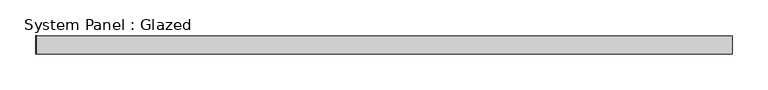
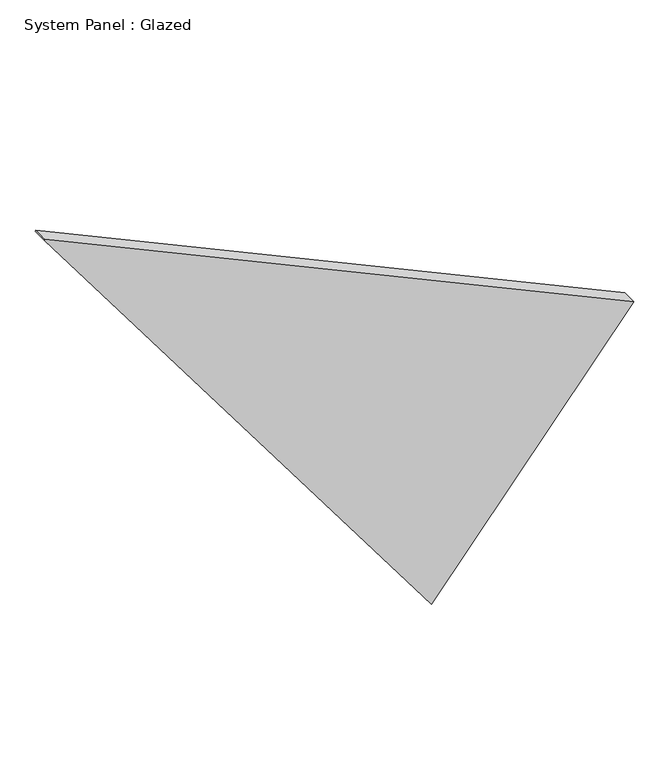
"""IFC4 building model written with IfcOpenShell, lengths in millimetres: plate geometry, System Panel : Glazed."""

import ifcopenshell
import ifcopenshell.guid

model = None  # the IFC model being written
_history = None  # IfcOwnerHistory: only IFC2X3 demands one
_inside = {}  # id of a spatial element -> (the spatial element, [elements in it])
_under = {}  # id of a project, library or spatial element -> (it, [spatial elements below it])
_declared = {}  # id of a project -> (the project, [libraries it declares])
_typed = {}  # id of a type object -> (the type object, [elements of that type])
_made_of = {}  # id of a material, layer set ... -> (it, [elements and type objects made of it])


def new_model(schema):
    """Start an empty IFC model of exactly this schema.

    Asked for "IFC4X3", IfcOpenShell would pick the latest addendum, in which some entities
    have other attributes; the version numbers below select the first issue.
    IFC2X3 requires an IfcOwnerHistory on every rooted entity: one is made here for all.
    """
    global model, _history
    if schema == "IFC4X3":
        model = ifcopenshell.file(schema_version=(4, 3, 0, 0))
    else:
        model = ifcopenshell.file(schema=schema)
    _inside.clear()
    _under.clear()
    _declared.clear()
    _typed.clear()
    _made_of.clear()
    _history = None
    if model.schema == "IFC2X3":
        org = make("IfcOrganization", Name="unknown")
        user = make(
            "IfcPersonAndOrganization",
            ThePerson=make("IfcPerson", FamilyName="unknown"),
            TheOrganization=org,
        )
        app = make(
            "IfcApplication",
            ApplicationDeveloper=org,
            Version="unknown",
            ApplicationFullName="unknown",
            ApplicationIdentifier="unknown",
        )
        _history = make(
            "IfcOwnerHistory",
            OwningUser=user,
            OwningApplication=app,
            ChangeAction="ADDED",
            CreationDate=0,
        )
    return model


def make(cls, **values):
    """One entity of the class cls with the attributes given. An attribute that is None is left unset."""
    return model.create_entity(
        cls, **{name: value for name, value in values.items() if value is not None}
    )


def rooted(cls, **values):
    """An entity with a GlobalId (a new one), such as an element, a storey or a relation."""
    return make(cls, GlobalId=ifcopenshell.guid.new(), OwnerHistory=_history, **values)


def si_unit(unit_type, name, prefix=None):
    """IfcSIUnit, for example si_unit("LENGTHUNIT", "METRE", prefix="MILLI")."""
    return make("IfcSIUnit", UnitType=unit_type, Prefix=prefix, Name=name)


def assignment(units):
    """IfcUnitAssignment: the units of a project."""
    return None if units is None else make("IfcUnitAssignment", Units=units)


def point(xyz):
    """IfcCartesianPoint."""
    return None if xyz is None else make("IfcCartesianPoint", Coordinates=xyz)


def direction(xyz):
    """IfcDirection."""
    return None if xyz is None else make("IfcDirection", DirectionRatios=xyz)


def frame(location, z_axis=None, x_axis=None):
    """IfcAxis2Placement3D, a coordinate frame: its origin and axes. An axis left out is left unset."""
    return make(
        "IfcAxis2Placement3D",
        Location=point(location),
        Axis=direction(z_axis),
        RefDirection=direction(x_axis),
    )


def origin():
    """The frame at (0, 0, 0) with its axes left unset."""
    return frame((0.0, 0.0, 0.0))


def place(relative_to, where):
    """IfcLocalPlacement: puts the frame where relative to a parent placement (None: the world)."""
    return make(
        "IfcLocalPlacement", PlacementRelTo=relative_to, RelativePlacement=where
    )


def context(
    kind, dimensions, precision=None, world=None, true_north=None, identifier=None
):
    """IfcGeometricRepresentationContext, for example the 3D "Model" context."""
    return make(
        "IfcGeometricRepresentationContext",
        ContextIdentifier=identifier,
        ContextType=kind,
        CoordinateSpaceDimension=dimensions,
        Precision=precision,
        WorldCoordinateSystem=world,
        TrueNorth=true_north,
    )


def project(units=None, contexts=None):
    """IfcProject with its units and contexts."""
    return rooted(
        "IfcProject",
        Name="project",
        RepresentationContexts=contexts,
        UnitsInContext=assignment(units),
    )


def spatial(cls, under=None, at=None, **own):
    """A site, building, storey or space (cls), placed at a placement, below another one or the project."""
    s = rooted(cls, ObjectPlacement=at, **own)
    if under is not None:
        _under.setdefault(under.id(), (under, []))[1].append(s)
    return s


def polyline(points):
    """IfcPolyline through the points."""
    return make("IfcPolyline", Points=[point(p) for p in points])


def outline(outer, holes=None, kind="AREA"):
    """IfcArbitraryClosedProfileDef: a profile drawn as a closed curve; with holes, ...WithVoids."""
    if holes is None:
        return make("IfcArbitraryClosedProfileDef", ProfileType=kind, OuterCurve=outer)
    return make(
        "IfcArbitraryProfileDefWithVoids",
        ProfileType=kind,
        OuterCurve=outer,
        InnerCurves=holes,
    )


def extrude(swept, where, along, depth):
    """IfcExtrudedAreaSolid: the profile swept, set in the frame where, extruded along a direction by depth."""
    return make(
        "IfcExtrudedAreaSolid",
        SweptArea=swept,
        Position=where,
        ExtrudedDirection=direction(along),
        Depth=depth,
    )


def shape(context_of_items, identifier, shape_type, items):
    """IfcShapeRepresentation: the items that make up one representation, for example the "Body"."""
    return make(
        "IfcShapeRepresentation",
        ContextOfItems=context_of_items,
        RepresentationIdentifier=identifier,
        RepresentationType=shape_type,
        Items=items,
    )


def source(mapping_origin, context_of_items, identifier, shape_type, items):
    """IfcRepresentationMap: a shape defined once, which mapped items show again and again."""
    return make(
        "IfcRepresentationMap",
        MappingOrigin=mapping_origin,
        MappedRepresentation=shape(context_of_items, identifier, shape_type, items),
    )


def transform(
    local_origin,
    x_axis=None,
    y_axis=None,
    z_axis=None,
    scale=None,
    scale2=None,
    scale3=None,
    uniform=True,
):
    """IfcCartesianTransformationOperator3D, or its non-uniform kind. x_axis, y_axis, z_axis: its Axis1, 2, 3."""
    if uniform:
        return make(
            "IfcCartesianTransformationOperator3D",
            Axis1=direction(x_axis),
            Axis2=direction(y_axis),
            LocalOrigin=point(local_origin),
            Scale=scale,
            Axis3=direction(z_axis),
        )
    return make(
        "IfcCartesianTransformationOperator3DnonUniform",
        Axis1=direction(x_axis),
        Axis2=direction(y_axis),
        LocalOrigin=point(local_origin),
        Scale=scale,
        Axis3=direction(z_axis),
        Scale2=scale2,
        Scale3=scale3,
    )


def mapped(mapping_source, mapping_target):
    """IfcMappedItem: shows the shape of a source again, moved by a transform."""
    return make(
        "IfcMappedItem", MappingSource=mapping_source, MappingTarget=mapping_target
    )


def made_of(thing, what):
    """Note that an element or type object is made of a material, layer set ...; save() writes the relation."""
    if what is not None:
        _made_of.setdefault(what.id(), (what, []))[1].append(thing)
    return thing


def element(
    cls,
    number,
    at=None,
    inside=None,
    cuts=None,
    type_object=None,
    material=None,
    context=None,
    identifier="Body",
    shape_type=None,
    held_by="IfcProductDefinitionShape",
    body=None,
    shapes=None,
    **own,
):
    """One element of the class cls, such as IfcWall. Its Tag is "e" and its number.

    at: its placement. inside: the storey or other place that contains it. cuts: it is an
    opening in that element (IfcRelVoidsElement). A single representation is given by context,
    identifier, shape_type and body (its items); several are given by shapes. held_by: the class
    of the entity that holds the representations. save() writes the other relations.
    """
    e = rooted(cls, Tag="e%d" % number, ObjectPlacement=at, **own)
    if body is not None:
        shapes = [shape(context, identifier, shape_type, body)]
    if shapes is not None:
        e.Representation = make(held_by, Representations=shapes)
    if inside is not None:
        _inside.setdefault(inside.id(), (inside, []))[1].append(e)
    if cuts is not None:
        rooted(
            "IfcRelVoidsElement", RelatingBuildingElement=cuts, RelatedOpeningElement=e
        )
    if type_object is not None:
        _typed.setdefault(type_object.id(), (type_object, []))[1].append(e)
    return made_of(e, material)


def aggregate(whole, parts):
    """IfcRelAggregates: a whole, such as a stair, and the parts it consists of."""
    return rooted("IfcRelAggregates", RelatingObject=whole, RelatedObjects=parts)


def save(model, path):
    """Write the relations noted so far, then the file.

    IfcRelAggregates (storeys below a building ...), IfcRelContainedInSpatialStructure (elements
    in a storey), IfcRelDefinesByType, IfcRelAssociatesMaterial and IfcRelDeclares: one each for
    every whole, place, type object, material and project.
    """
    for whole, parts in _under.values():
        aggregate(whole, parts)
    for where, things in _inside.values():
        rooted(
            "IfcRelContainedInSpatialStructure",
            RelatedElements=things,
            RelatingStructure=where,
        )
    for kind, things in _typed.values():
        rooted("IfcRelDefinesByType", RelatedObjects=things, RelatingType=kind)
    for what, things in _made_of.values():
        rooted("IfcRelAssociatesMaterial", RelatedObjects=things, RelatingMaterial=what)
    for by, libraries in _declared.values():
        rooted("IfcRelDeclares", RelatingContext=by, RelatedDefinitions=libraries)
    model.write(path)


def system_panel_glazed_60e367e1(model_context):
    return source(origin(), model_context, "Body", "SweptSolid", [
        extrude(outline(polyline([(0.0, 151.8849292), (408.3581632, 483.4480507), (854.8038706, -482.6555752), (853.8278457, -483.4480507), (0.0, 151.8849292)])), frame((0.0, -44.45, 0.0), z_axis=(0.0, 1.0, 0.0), x_axis=(0.0, 0.0, 1.0)), (0.0, 0.0, 1.0), 25.4),
    ])


if __name__ == "__main__":
    model = new_model("IFC4")
    model_context = context("Model", 3, world=origin())
    ifc_project = project(units=[si_unit("LENGTHUNIT", "METRE", prefix="MILLI")], contexts=[model_context])
    site = spatial("IfcSite", under=ifc_project)
    building = spatial("IfcBuilding", under=site)
    placement = place(None, origin())
    system_panel_glazed_shape = system_panel_glazed_60e367e1(model_context)
    element("IfcPlate", 1, ObjectType="System Panel : Glazed", at=placement, inside=building, context=model_context, shape_type="MappedRepresentation", body=[
        mapped(system_panel_glazed_shape, transform((0.0, 0.0, 0.0), x_axis=(1.0, 0.0, 0.0), y_axis=(0.0, 1.0, 0.0), z_axis=(0.0, 0.0, 1.0))),
    ])
    save(model, "model.ifc")
